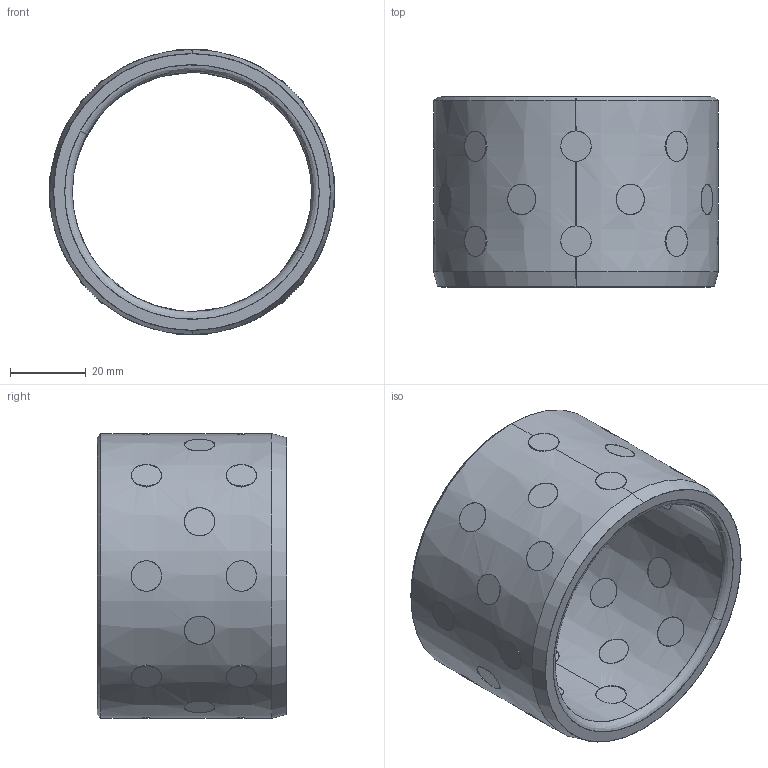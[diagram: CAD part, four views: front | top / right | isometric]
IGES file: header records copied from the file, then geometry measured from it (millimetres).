
Start section: SolidWorks IGES file using analytic representation for surfaces
Global section: file name: C:\Users\Dell\Desktop\deltakont\hatalýlar\D30.04\Ø63\D30.04_635075.igs; native system: SolidWorks 2010; preprocessor: SolidWorks 2010; author: Dell; date: 111224.220850; units: millimetre
Bounding box: 75 x 50 x 75 mm (x, y, z)
Surface area: 31070.7 mm2 (no closed solid volume)
Topology: 0 solids, 0 shells, 162 faces, 4848 edges, 4848 vertices
Faces by surface type: revolution 106, bspline 56
